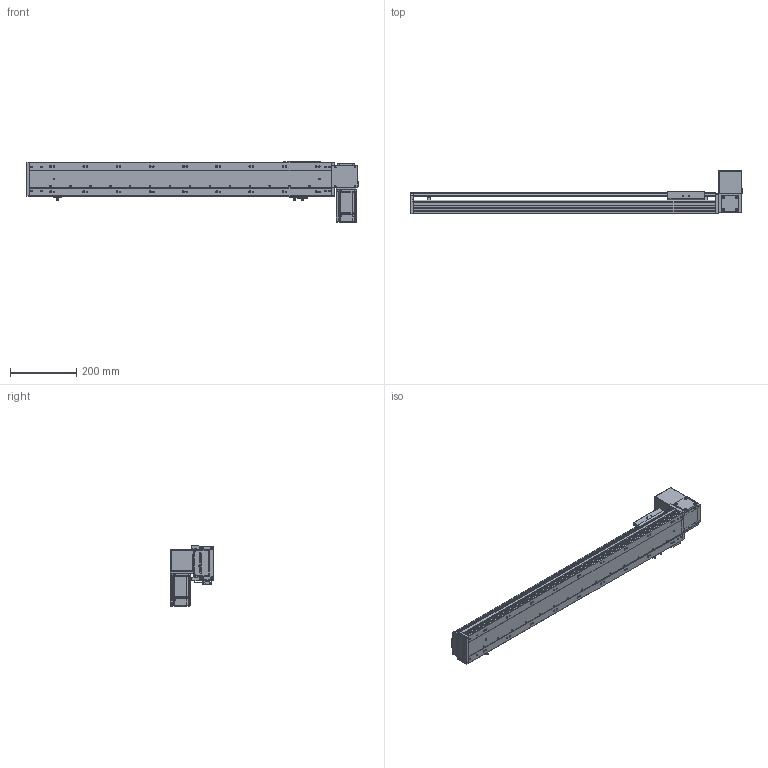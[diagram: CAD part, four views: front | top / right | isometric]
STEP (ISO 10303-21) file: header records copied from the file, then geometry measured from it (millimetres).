
FILE_DESCRIPTION (( 'STEP AP203' ), '1' );
FILE_NAME ('RY100-T-300-UL.SLDASM_700.step', '2024-04-25T08:39:37', ( '盈信电脑' ), ( '东莞市道滘镇水果街19号' ), 'SwSTEP 2.0', 'SolidWorks 2016', '' );
FILE_SCHEMA (( 'CONFIG_CONTROL_DESIGN' ));
Length unit declared in the file: millimetre
Products named in the file (15): RY100-T翋肮祭謫裔啣2; RY100俋离覜茼え; RY100-T-300-RK倰第菁釱_700; RY100綴裔啣; RY100-T翋肮祭謫裔啣; 覜茼ん672; RY100-T-300-UL.SLDASM_700; RY100-T-300-RK倰第奻裔_700; 1; RY100-T左右折电机安装板; RY100-T粣創揤踡裔; RY100-T肮祭謫翋盓傅釱; RY80-T肮祭謫奻殏俋欶; 滅袉蝶18-10; RY100-T肮祭謫臏賑輸
Assembly tree (17 placements, depth 2):
  RY100-T-300-UL.SLDASM_700
    RY100-T-300-RK倰第菁釱_700
    RY100-T-300-RK倰第奻裔_700
    RY100-T肮祭謫臏賑輸
    RY100綴裔啣
    覜茼ん672  x3
    RY100俋离覜茼え
    RY100-T肮祭謫翋盓傅釱
    滅袉蝶18-10  x2
    RY100-T翋肮祭謫裔啣2
    RY100-T翋肮祭謫裔啣
    1
    RY100-T左右折电机安装板
    RY80-T肮祭謫奻殏俋欶
    RY100-T粣創揤踡裔
Bounding box: 1000 x 130.5 x 182.5 mm (x, y, z)
Volume: 2144310.3 mm3; surface area: 869966.5 mm2
Topology: 17 solids, 17 shells, 2235 faces, 6227 edges, 4045 vertices
Faces by surface type: plane 1211, cylinder 811, cone 135, bspline 78
Entity records: 72291 total; most frequent: CARTESIAN_POINT 17583, ORIENTED_EDGE 11286, DIRECTION 10717, EDGE_CURVE 5643, VERTEX_POINT 3713, LINE 3633, VECTOR 3633, AXIS2_PLACEMENT_3D 3542
